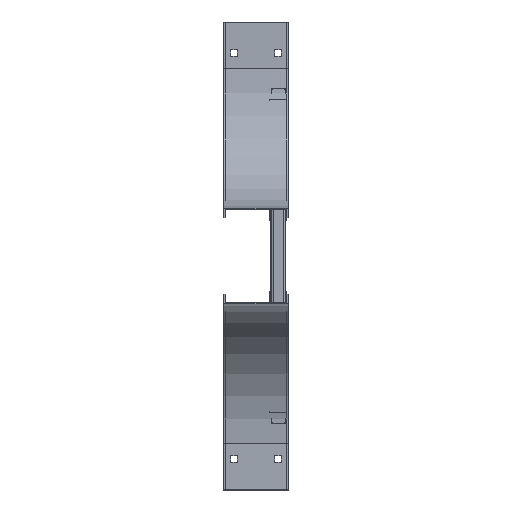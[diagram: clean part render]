
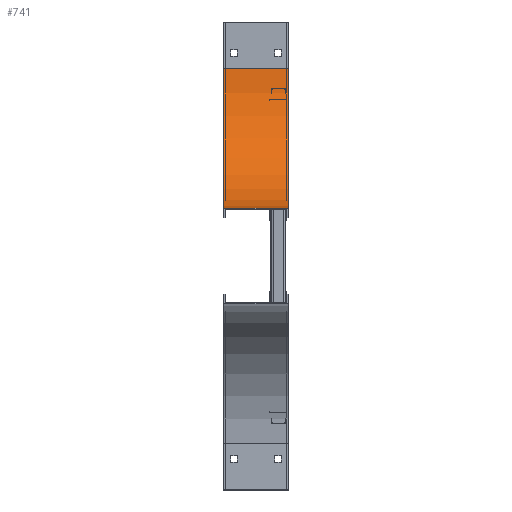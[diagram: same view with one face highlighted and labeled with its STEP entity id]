
A CAD part, left-side view. The second image highlights one B-rep face of the part: STEP entity #741.
In plain terms, the highlighted cylindrical face has radius 228.6 mm (diameter 457.2 mm), a partial arc.
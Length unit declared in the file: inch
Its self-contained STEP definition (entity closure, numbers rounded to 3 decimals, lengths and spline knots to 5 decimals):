
#156=CARTESIAN_POINT('',(0.,-9.,3.));
#157=DIRECTION('',(1.,0.,0.));
#158=DIRECTION('',(0.,1.,0.));
#159=AXIS2_PLACEMENT_3D('',#156,#157,#158);
#165=DIRECTION('',(1.,0.,0.));
#166=VECTOR('',#165,4.175);
#167=CARTESIAN_POINT('',(-4.175,0.,3.));
#168=LINE('',#167,#166);
#169=CARTESIAN_POINT('',(-4.175,-9.,3.));
#170=DIRECTION('',(1.,0.,0.));
#171=DIRECTION('',(0.,1.,0.));
#172=AXIS2_PLACEMENT_3D('',#169,#170,#171);
#174=DIRECTION('',(1.,0.,0.));
#175=VECTOR('',#174,4.175);
#176=CARTESIAN_POINT('',(-4.175,-9.,12.));
#177=LINE('',#176,#175);
#409=CARTESIAN_POINT('',(-4.175,0.,3.));
#410=CARTESIAN_POINT('',(0.,0.,3.));
#411=VERTEX_POINT('',#409);
#412=VERTEX_POINT('',#410);
#425=CARTESIAN_POINT('',(-4.175,-9.,12.));
#426=CARTESIAN_POINT('',(0.,-9.,12.));
#427=VERTEX_POINT('',#425);
#428=VERTEX_POINT('',#426);
#729=CARTESIAN_POINT('',(-1.,-9.,3.));
#730=DIRECTION('',(1.,0.,0.));
#731=DIRECTION('',(0.,-1.,0.));
#732=AXIS2_PLACEMENT_3D('',#729,#730,#731);
#733=CYLINDRICAL_SURFACE('',#732,9.);
#734=ORIENTED_EDGE('',*,*,#553,.F.);
#735=ORIENTED_EDGE('',*,*,#596,.T.);
#737=ORIENTED_EDGE('',*,*,#736,.T.);
#738=ORIENTED_EDGE('',*,*,#715,.F.);
#739=EDGE_LOOP('',(#734,#735,#737,#738));
#740=FACE_OUTER_BOUND('',#739,.F.);
#741=ADVANCED_FACE('',(#740),#733,.F.);
#160=CIRCLE('',#159,9.);
#173=CIRCLE('',#172,9.);
#553=EDGE_CURVE('',#411,#412,#168,.T.);
#596=EDGE_CURVE('',#411,#427,#173,.T.);
#715=EDGE_CURVE('',#412,#428,#160,.T.);
#736=EDGE_CURVE('',#427,#428,#177,.T.);
